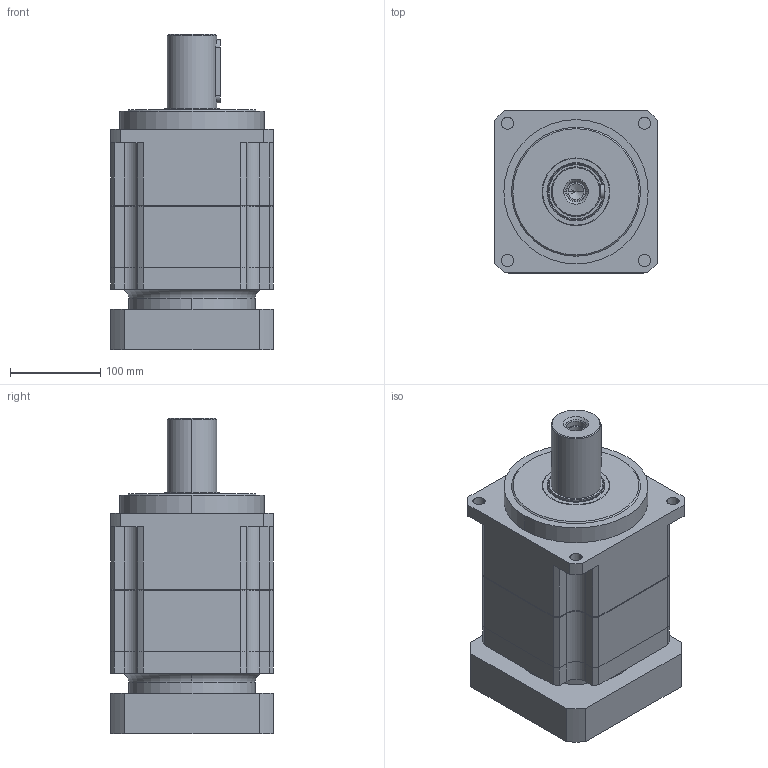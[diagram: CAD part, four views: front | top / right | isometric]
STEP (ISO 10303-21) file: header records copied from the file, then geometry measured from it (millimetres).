
FILE_DESCRIPTION (( 'STEP AP203' ), '1' );
FILE_NAME ('PAG180-L2-35-114.3-200.STEP', '2022-07-18T09:06:09', ( 'Windows User' ), ( 'P R C' ), 'SwSTEP 2.0', 'SolidWorks 2016', '' );
FILE_SCHEMA (( 'CONFIG_CONTROL_DESIGN' ));
Length unit declared in the file: millimetre
Products named in the file (8): PAG180齿圈转架; PAG180二级齿圈; PAG180薊粣ん; PAG180珨撰蟀諉啣 180選 114.3x10 200xM12; 邧埴瑩 16x10x70; TC60-75-9_TC-34.9-55-7; 内六角圆柱头螺钉M10×35; PAG180-L2-35-114.3-200
Assembly tree (7 placements, depth 2):
  PAG180-L2-35-114.3-200
    PAG180齿圈转架
    PAG180二级齿圈
    PAG180薊粣ん
    PAG180珨撰蟀諉啣 180選 114.3x10 200xM12
    邧埴瑩 16x10x70
    TC60-75-9_TC-34.9-55-7
    内六角圆柱头螺钉M10×35
Bounding box: 180 x 180 x 349.5 mm (x, y, z)
Volume: 7062515.8 mm3; surface area: 521257.7 mm2
Topology: 7 solids, 7 shells, 1047 faces, 2756 edges, 1798 vertices
Faces by surface type: plane 580, cylinder 209, bspline 176, cone 62, torus 20
Entity records: 41383 total; most frequent: CARTESIAN_POINT 15472, ORIENTED_EDGE 5452, DIRECTION 4641, EDGE_CURVE 2726, LINE 1815, VECTOR 1815, VERTEX_POINT 1798, AXIS2_PLACEMENT_3D 1413
